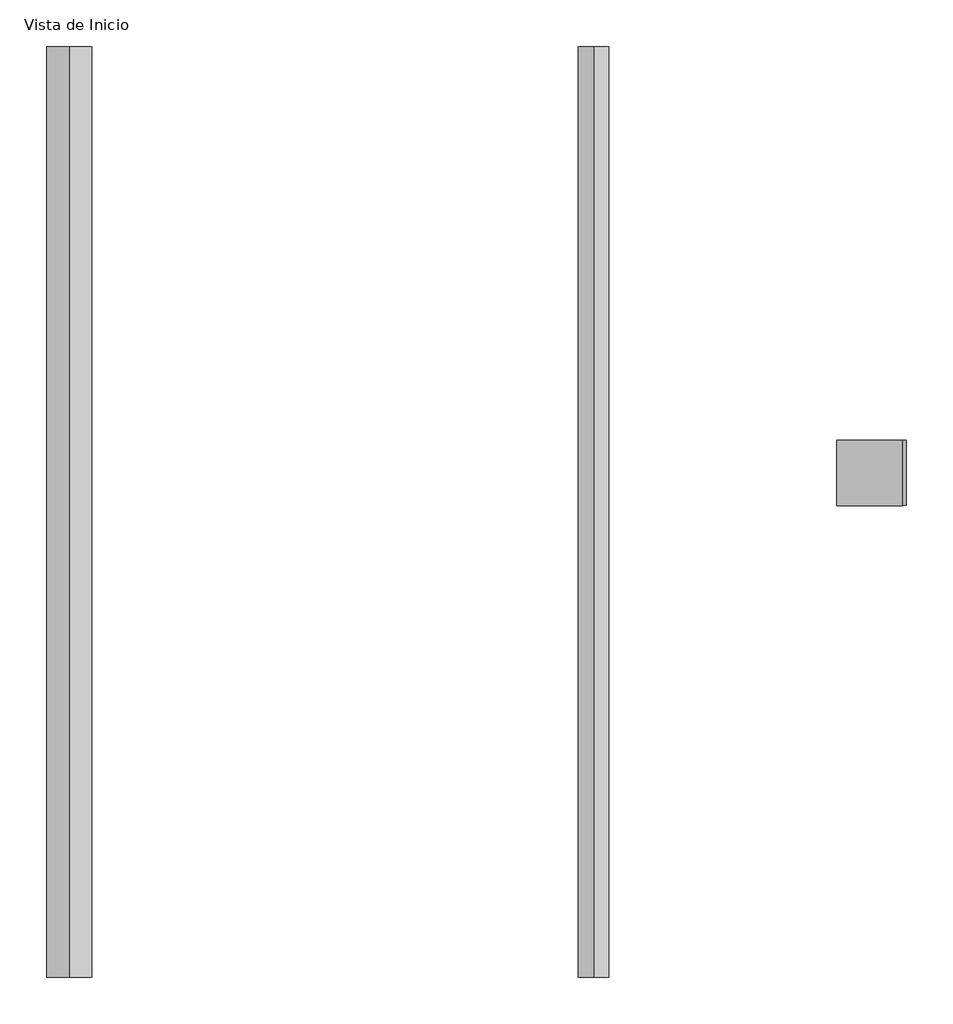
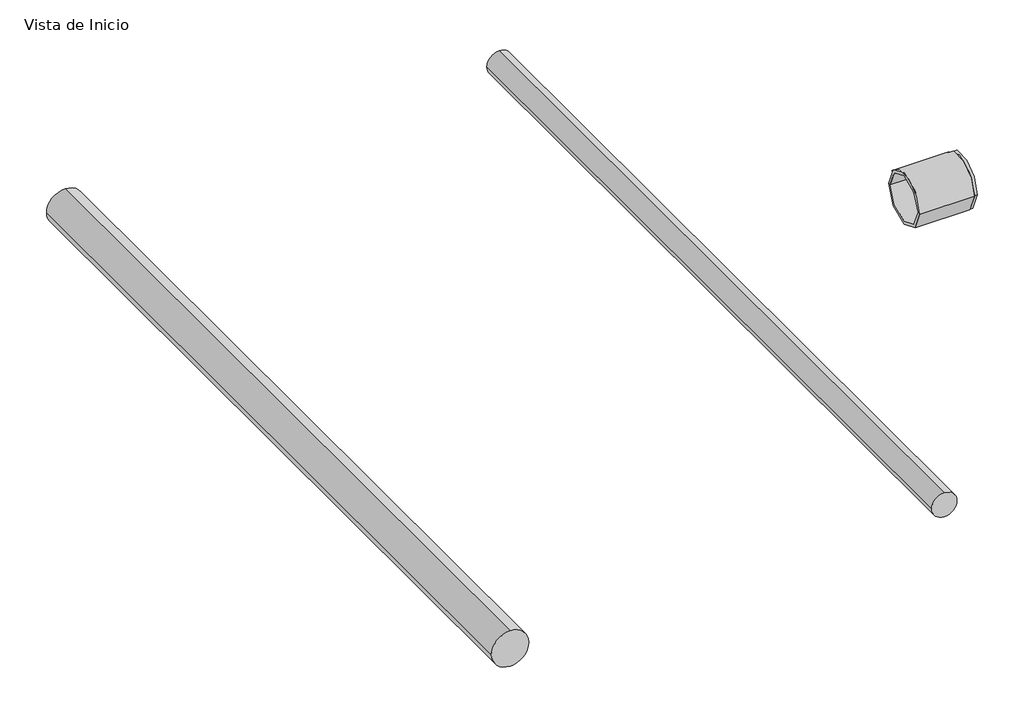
# One storey, incomplete: 2 pipe fittings, 2 pipe segments.
"""IFC4 building model written with IfcOpenShell, lengths in millimetres."""

from ifc_helpers import new_model, si_unit, point, frame, frame_2d, origin, place, context, project, spatial, circle_curve, trimmed, segment, composite_curve, outline, extrude, transform, mapped, element, save
from components import var_8be2cb27, var_c3c5f9d4

model = new_model("IFC4")

# Units and contexts
model_context = context("Model", 3, world=origin())
ifc_project = project(units=[si_unit("LENGTHUNIT", "METRE", prefix="MILLI")], contexts=[model_context])

# Site, building, storey
site = spatial("IfcSite", under=ifc_project)
building = spatial("IfcBuilding", under=site)
storey = spatial("IfcBuildingStorey", under=building, Name="Vista de Inicio", Elevation=0.0)

# Pipe fittings
placement = place(None, origin())
var_shape = var_8be2cb27(model_context)
element("IfcPipeFitting", 1, ObjectType="PlastigamaWavin_Unionesdetubería_Cédula40_ZNoUsarUnión : Var.", at=placement, inside=storey, context=model_context, shape_type="MappedRepresentation", body=[
    mapped(var_shape, transform((3259.9001399, 10135.3018159, 0.0), x_axis=(1.0, 0.0, 0.0), y_axis=(0.0, 1.0, 0.0), z_axis=(0.0, 0.0, 1.0))),
])
var_2_shape = var_c3c5f9d4(model_context)
element("IfcPipeFitting", 2, ObjectType="PlastigamaWavin_Unionesdetubería_Cédula40_ReductorBuje : Var.", at=placement, inside=storey, context=model_context, shape_type="MappedRepresentation", body=[
    mapped(var_2_shape, transform((3269.7501399, 10135.3018159, 0.0), x_axis=(1.0, 0.0, 0.0), y_axis=(0.0, 1.0, 0.0), z_axis=(0.0, 0.0, 1.0))),
])

# Pipe segments
element("IfcPipeSegment", 3, ObjectType="Plastigama Tubería PVC Cédula40", at=placement, inside=storey, context=model_context, shape_type="SweptSolid", body=[
    extrude(outline(composite_curve([segment(trimmed(circle_curve(frame_2d((0.0, 1677.9728321)), 44.45), [point((0.0, 1633.5228321))], [point((-44.45, 1677.9728321))], False, "CARTESIAN"), True, "CONTINUOUS"), segment(trimmed(circle_curve(frame_2d((0.0, 1677.9728321)), 44.45), [point((-44.45, 1677.9728321))], [point((0.0, 1722.4228321))], False, "CARTESIAN"), True, "CONTINUOUS"), segment(trimmed(circle_curve(frame_2d((0.0, 1677.9728321)), 44.45), [point((0.0, 1722.4228321))], [point((44.45, 1677.9728321))], False, "CARTESIAN"), True, "CONTINUOUS"), segment(trimmed(circle_curve(frame_2d((0.0, 1677.9728321)), 44.45), [point((44.45, 1677.9728321))], [point((0.0, 1633.5228321))], False, "CARTESIAN"), True, "CONTINUOUS")], self_intersect=False)), frame((0.0, 9137.998597, 0.0), z_axis=(0.0, 1.0, 0.0), x_axis=(0.0, 0.0, 1.0)), (0.0, 0.0, 1.0), 1840.0),
])
element("IfcPipeSegment", 4, ObjectType="Plastigama Tubería P/Piscina", at=placement, inside=storey, context=model_context, shape_type="SweptSolid", body=[
    extrude(outline(composite_curve([segment(trimmed(circle_curve(frame_2d((0.0, 2714.9800561)), 30.1625), [point((0.0, 2684.8175561))], [point((-30.1625, 2714.9800561))], False, "CARTESIAN"), True, "CONTINUOUS"), segment(trimmed(circle_curve(frame_2d((0.0, 2714.9800561)), 30.1625), [point((-30.1625, 2714.9800561))], [point((0.0, 2745.1425561))], False, "CARTESIAN"), True, "CONTINUOUS"), segment(trimmed(circle_curve(frame_2d((0.0, 2714.9800561)), 30.1625), [point((0.0, 2745.1425561))], [point((30.1625, 2714.9800561))], False, "CARTESIAN"), True, "CONTINUOUS"), segment(trimmed(circle_curve(frame_2d((0.0, 2714.9800561)), 30.1625), [point((30.1625, 2714.9800561))], [point((0.0, 2684.8175561))], False, "CARTESIAN"), True, "CONTINUOUS")], self_intersect=False)), frame((0.0, 9137.998597, 0.0), z_axis=(0.0, 1.0, 0.0), x_axis=(0.0, 0.0, 1.0)), (0.0, 0.0, 1.0), 1840.0),
])

save(model, "model.ifc")
